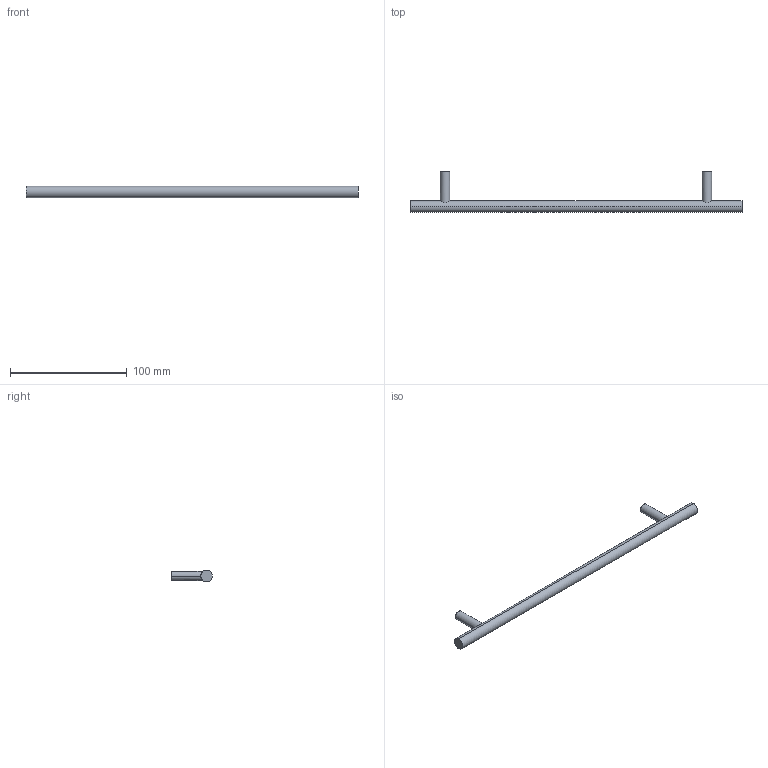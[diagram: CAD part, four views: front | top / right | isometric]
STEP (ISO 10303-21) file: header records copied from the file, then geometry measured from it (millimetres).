
FILE_DESCRIPTION( ( '' ), '1' );
FILE_NAME( 'D:/1.AUTOCAD EXPORT/Group 10/sheet_10_1/9070984.stp', '2013-10-21T10:04:56', ( '' ), ( '' ), ' ', ' ', ' ' );
FILE_SCHEMA( ( 'automotive_design' ) );
Length unit declared in the file: millimetre
Products named in the file (1): 1
Bounding box: 284 x 35 x 10 mm (x, y, z)
Volume: 24561.3 mm3; surface area: 10673.5 mm2
Topology: 1 solids, 1 shells, 16 faces, 32 edges, 22 vertices
Faces by surface type: cylinder 10, plane 6
Entity records: 972 total; most frequent: CARTESIAN_POINT 205, DIRECTION 76, STYLED_ITEM 71, PRESENTATION_STYLE_ASSIGNMENT 71, COLOUR_RGB 71, ORIENTED_EDGE 64, AXIS2_PLACEMENT_3D 33, EDGE_CURVE 32
